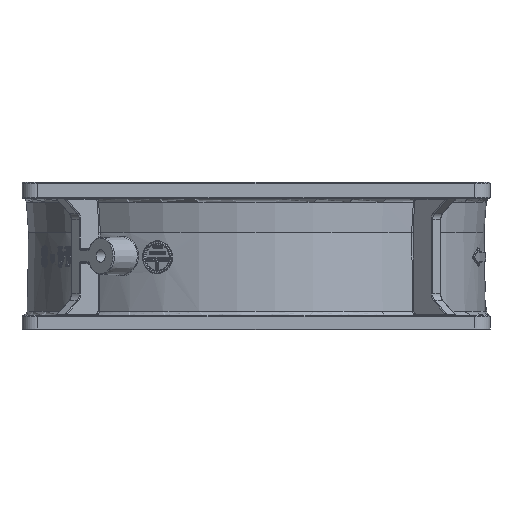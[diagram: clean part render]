
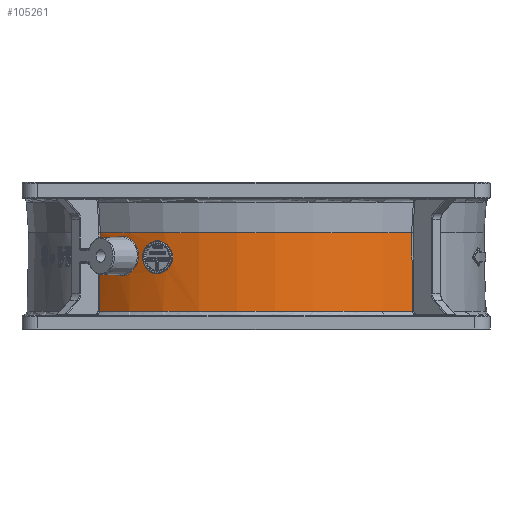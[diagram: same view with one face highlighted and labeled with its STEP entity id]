
A CAD part, front view. The second image highlights one B-rep face of the part: STEP entity #105261.
In plain terms, the highlighted conical face has half-angle 1 degrees and reference radius 58.789 mm.
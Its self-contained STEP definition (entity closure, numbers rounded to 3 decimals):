
#913=CONICAL_SURFACE('',#112488,58.789,0.017);
#1157=B_SPLINE_CURVE_WITH_KNOTS('',3,(#144612,#144613,#144614,#144615),
 .UNSPECIFIED.,.F.,.F.,(4,4),(-0.384,0.),.UNSPECIFIED.);
#1160=B_SPLINE_CURVE_WITH_KNOTS('',3,(#144649,#144650,#144651,#144652),
 .UNSPECIFIED.,.F.,.F.,(4,4),(-0.077,-0.035),
 .UNSPECIFIED.);
#1161=B_SPLINE_CURVE_WITH_KNOTS('',3,(#144718,#144719,#144720,#144721,#144722,
#144723,#144724,#144725,#144726,#144727,#144728,#144729),.UNSPECIFIED.,
 .F.,.F.,(4,1,1,1,1,1,1,1,1,4),(-2.809,-2.608,-2.407,
-2.006,-1.605,-1.204,-0.802,
-0.401,-0.201,0.),.UNSPECIFIED.);
#1164=B_SPLINE_CURVE_WITH_KNOTS('',3,(#144775,#144776,#144777,#144778),
 .UNSPECIFIED.,.F.,.F.,(4,4),(0.035,0.077),
 .UNSPECIFIED.);
#1165=B_SPLINE_CURVE_WITH_KNOTS('',3,(#144804,#144805,#144806,#144807),
 .UNSPECIFIED.,.F.,.F.,(4,4),(-1.21,0.),.UNSPECIFIED.);
#1173=B_SPLINE_CURVE_WITH_KNOTS('',3,(#144891,#144892,#144893,#144894),
 .UNSPECIFIED.,.F.,.F.,(4,4),(-2.017,0.),
 .UNSPECIFIED.);
#1174=B_SPLINE_CURVE_WITH_KNOTS('',3,(#144896,#144897,#144898,#144899,#144900,
#144901,#144902,#144903,#144904,#144905,#144906,#144907,#144908,#144909,
#144910),.UNSPECIFIED.,.T.,.F.,(4,1,1,1,1,1,1,1,1,1,1,1,4),(-2.474,
-2.297,-2.12,-1.855,-1.767,
-1.59,-1.414,-1.06,-0.707,
-0.53,-0.353,-0.177,0.),
 .UNSPECIFIED.);
#9771=FACE_BOUND('',#19867,.T.);
#13015=FACE_OUTER_BOUND('',#19866,.T.);
#19866=EDGE_LOOP('',(#72588,#72589,#72590,#72591,#72592,#72593,#72594,#72595));
#19867=EDGE_LOOP('',(#72596));
#42620=CIRCLE('',#112487,58.605);
#42621=CIRCLE('',#112489,58.957);
#45706=VERTEX_POINT('',#144583);
#45708=VERTEX_POINT('',#144610);
#45711=VERTEX_POINT('',#144647);
#45713=VERTEX_POINT('',#144716);
#45717=VERTEX_POINT('',#144773);
#45719=VERTEX_POINT('',#144802);
#45727=VERTEX_POINT('',#144882);
#45728=VERTEX_POINT('',#144889);
#45729=VERTEX_POINT('',#144895);
#55860=EDGE_CURVE('',#45708,#45706,#1157,.T.);
#55865=EDGE_CURVE('',#45711,#45708,#1160,.T.);
#55868=EDGE_CURVE('',#45713,#45711,#1161,.T.);
#55875=EDGE_CURVE('',#45717,#45713,#1164,.T.);
#55878=EDGE_CURVE('',#45719,#45717,#1165,.T.);
#55893=EDGE_CURVE('',#45706,#45727,#42620,.T.);
#55895=EDGE_CURVE('',#45728,#45719,#42621,.T.);
#55896=EDGE_CURVE('',#45727,#45728,#1173,.T.);
#55897=EDGE_CURVE('',#45729,#45729,#1174,.T.);
#72588=ORIENTED_EDGE('',*,*,#55860,.F.);
#72589=ORIENTED_EDGE('',*,*,#55865,.F.);
#72590=ORIENTED_EDGE('',*,*,#55868,.F.);
#72591=ORIENTED_EDGE('',*,*,#55875,.F.);
#72592=ORIENTED_EDGE('',*,*,#55878,.F.);
#72593=ORIENTED_EDGE('',*,*,#55895,.F.);
#72594=ORIENTED_EDGE('',*,*,#55896,.F.);
#72595=ORIENTED_EDGE('',*,*,#55893,.F.);
#72596=ORIENTED_EDGE('',*,*,#55897,.F.);
#105261=ADVANCED_FACE('',(#13015,#9771),#913,.T.);
#112487=AXIS2_PLACEMENT_3D('',#144883,#120202,#120203);
#112488=AXIS2_PLACEMENT_3D('',#144888,#120204,#120205);
#112489=AXIS2_PLACEMENT_3D('',#144890,#120206,#120207);
#120202=DIRECTION('center_axis',(0.,0.,1.));
#120203=DIRECTION('ref_axis',(0.,-1.,0.));
#120204=DIRECTION('center_axis',(0.,0.,-1.));
#120205=DIRECTION('ref_axis',(1.,0.,0.));
#120206=DIRECTION('center_axis',(0.,0.,-1.));
#120207=DIRECTION('ref_axis',(0.,-1.,0.));
#144583=CARTESIAN_POINT('',(-39.979,-42.851,24.954));
#144610=CARTESIAN_POINT('',(-40.027,-42.897,21.113));
#144612=CARTESIAN_POINT('Ctrl Pts',(-40.027,-42.897,
21.113));
#144613=CARTESIAN_POINT('Ctrl Pts',(-40.011,-42.882,
22.393));
#144614=CARTESIAN_POINT('Ctrl Pts',(-39.995,-42.866,
23.674));
#144615=CARTESIAN_POINT('Ctrl Pts',(-39.979,-42.851,
24.954));
#144647=CARTESIAN_POINT('',(-38.179,-44.55,21.115));
#144649=CARTESIAN_POINT('Ctrl Pts',(-38.179,-44.55,
21.115));
#144650=CARTESIAN_POINT('Ctrl Pts',(-38.807,-44.012,
21.114));
#144651=CARTESIAN_POINT('Ctrl Pts',(-39.423,-43.461,
21.113));
#144652=CARTESIAN_POINT('Ctrl Pts',(-40.027,-42.897,
21.113));
#144716=CARTESIAN_POINT('',(-38.231,-44.603,16.877));
#144718=CARTESIAN_POINT('Ctrl Pts',(-38.231,-44.603,
16.877));
#144719=CARTESIAN_POINT('Ctrl Pts',(-38.029,-44.791,
16.268));
#144720=CARTESIAN_POINT('Ctrl Pts',(-37.438,-45.317,
15.164));
#144721=CARTESIAN_POINT('Ctrl Pts',(-35.657,-46.788,
13.715));
#144722=CARTESIAN_POINT('Ctrl Pts',(-32.771,-48.879,
13.802));
#144723=CARTESIAN_POINT('Ctrl Pts',(-30.106,-50.449,
16.819));
#144724=CARTESIAN_POINT('Ctrl Pts',(-30.041,-50.4,
21.167));
#144725=CARTESIAN_POINT('Ctrl Pts',(-32.646,-48.742,
24.201));
#144726=CARTESIAN_POINT('Ctrl Pts',(-35.533,-46.651,
24.275));
#144727=CARTESIAN_POINT('Ctrl Pts',(-37.345,-45.22,
22.827));
#144728=CARTESIAN_POINT('Ctrl Pts',(-37.962,-44.722,
21.724));
#144729=CARTESIAN_POINT('Ctrl Pts',(-38.179,-44.55,
21.115));
#144773=CARTESIAN_POINT('',(-40.08,-42.949,16.88));
#144775=CARTESIAN_POINT('Ctrl Pts',(-40.08,-42.949,
16.88));
#144776=CARTESIAN_POINT('Ctrl Pts',(-39.476,-43.513,
16.879));
#144777=CARTESIAN_POINT('Ctrl Pts',(-38.859,-44.065,
16.878));
#144778=CARTESIAN_POINT('Ctrl Pts',(-38.231,-44.603,
16.877));
#144802=CARTESIAN_POINT('',(-40.232,-43.096,4.783));
#144804=CARTESIAN_POINT('Ctrl Pts',(-40.232,-43.096,
4.783));
#144805=CARTESIAN_POINT('Ctrl Pts',(-40.182,-43.047,
8.815));
#144806=CARTESIAN_POINT('Ctrl Pts',(-40.131,-42.998,
12.847));
#144807=CARTESIAN_POINT('Ctrl Pts',(-40.08,-42.949,
16.88));
#144882=CARTESIAN_POINT('',(39.979,-42.851,24.954));
#144883=CARTESIAN_POINT('Origin',(0.,0.,24.954));
#144888=CARTESIAN_POINT('Origin',(0.,0.,14.4));
#144889=CARTESIAN_POINT('',(40.232,-43.096,4.783));
#144890=CARTESIAN_POINT('Origin',(0.,0.,4.783));
#144891=CARTESIAN_POINT('Ctrl Pts',(39.979,-42.851,
24.954));
#144892=CARTESIAN_POINT('Ctrl Pts',(40.064,-42.932,
18.23));
#144893=CARTESIAN_POINT('Ctrl Pts',(40.148,-43.014,
11.506));
#144894=CARTESIAN_POINT('Ctrl Pts',(40.232,-43.096,4.783));
#144895=CARTESIAN_POINT('',(-21.424,-54.666,18.668));
#144896=CARTESIAN_POINT('Ctrl Pts',(-21.424,-54.666,
18.668));
#144897=CARTESIAN_POINT('Ctrl Pts',(-21.42,-54.656,
19.304));
#144898=CARTESIAN_POINT('Ctrl Pts',(-21.683,-54.53,
20.574));
#144899=CARTESIAN_POINT('Ctrl Pts',(-22.988,-53.969,
22.366));
#144900=CARTESIAN_POINT('Ctrl Pts',(-24.72,-53.187,
23.027));
#144901=CARTESIAN_POINT('Ctrl Pts',(-26.435,-52.351,
22.804));
#144902=CARTESIAN_POINT('Ctrl Pts',(-27.734,-51.694,
22.093));
#144903=CARTESIAN_POINT('Ctrl Pts',(-29.189,-50.918,
20.062));
#144904=CARTESIAN_POINT('Ctrl Pts',(-29.219,-50.979,
16.541));
#144905=CARTESIAN_POINT('Ctrl Pts',(-26.819,-52.348,
14.368));
#144906=CARTESIAN_POINT('Ctrl Pts',(-24.464,-53.467,
14.387));
#144907=CARTESIAN_POINT('Ctrl Pts',(-22.846,-54.16,
15.227));
#144908=CARTESIAN_POINT('Ctrl Pts',(-21.707,-54.592,16.761));
#144909=CARTESIAN_POINT('Ctrl Pts',(-21.428,-54.677,
18.032));
#144910=CARTESIAN_POINT('Ctrl Pts',(-21.424,-54.666,
18.668));
